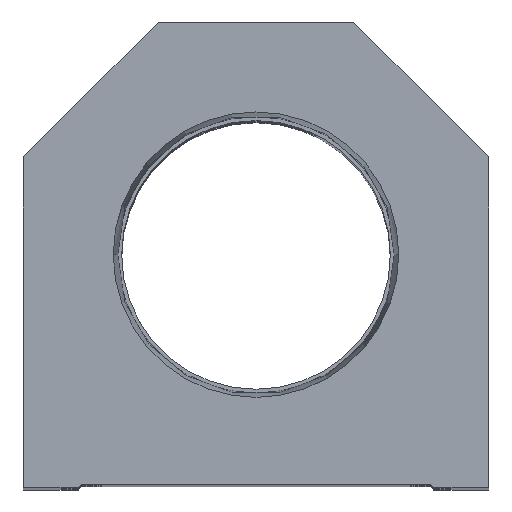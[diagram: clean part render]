
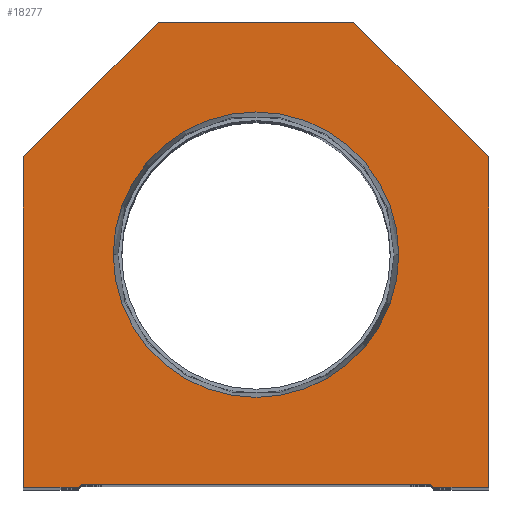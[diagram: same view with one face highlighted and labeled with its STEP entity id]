
A CAD part, top view. The second image highlights one B-rep face of the part: STEP entity #18277.
In plain terms, the highlighted planar face has unit normal (0, 0, 1).
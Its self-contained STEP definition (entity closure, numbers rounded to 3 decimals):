
#133 = DIRECTION ( 'NONE',  ( -0.707, 0.707, 0. ) ) ;
#222 = DIRECTION ( 'NONE',  ( 1., 0., 0. ) ) ;
#540 = DIRECTION ( 'NONE',  ( 0.707, 0.707, 0. ) ) ;
#886 = DIRECTION ( 'NONE',  ( 0., 0., 1. ) ) ;
#1094 = CARTESIAN_POINT ( 'NONE',  ( 29.1, 0., 0. ) ) ;
#1209 = LINE ( 'NONE', #13884, #12141 ) ;
#1412 = DIRECTION ( 'NONE',  ( 0.707, -0.707, 0. ) ) ;
#1571 = EDGE_LOOP ( 'NONE', ( #6494, #17538, #5445, #16639, #16334, #4119, #5493, #12669, #13872, #1754 ) ) ;
#1737 = VERTEX_POINT ( 'NONE', #10301 ) ;
#1754 = ORIENTED_EDGE ( 'NONE', *, *, #5977, .T. ) ;
#1776 = CARTESIAN_POINT ( 'NONE',  ( 0., 38.1, 0. ) ) ;
#1801 = CARTESIAN_POINT ( 'NONE',  ( -38.1, 54.1, 0. ) ) ;
#1808 = CARTESIAN_POINT ( 'NONE',  ( 0., 38.1, 0. ) ) ;
#2021 = DIRECTION ( 'NONE',  ( 0., 0., 1. ) ) ;
#2053 = CARTESIAN_POINT ( 'NONE',  ( -28.6, 0.5, 0. ) ) ;
#2466 = PLANE ( 'NONE',  #13364 ) ;
#2878 = LINE ( 'NONE', #15762, #13768 ) ;
#2883 = VECTOR ( 'NONE', #540, 1000. ) ;
#3125 = CARTESIAN_POINT ( 'NONE',  ( 28.6, 0., 0. ) ) ;
#3391 = LINE ( 'NONE', #1801, #19461 ) ;
#3954 = CARTESIAN_POINT ( 'NONE',  ( -38.1, 0., 0. ) ) ;
#4119 = ORIENTED_EDGE ( 'NONE', *, *, #8512, .T. ) ;
#4182 = DIRECTION ( 'NONE',  ( -1., 0., 0. ) ) ;
#4560 = EDGE_CURVE ( 'NONE', #7757, #1737, #3391, .T. ) ;
#4573 = DIRECTION ( 'NONE',  ( 1., 0., 0. ) ) ;
#4869 = EDGE_CURVE ( 'NONE', #9669, #13453, #17477, .T. ) ;
#4893 = EDGE_CURVE ( 'NONE', #13475, #9405, #7857, .T. ) ;
#5095 = VERTEX_POINT ( 'NONE', #17079 ) ;
#5445 = ORIENTED_EDGE ( 'NONE', *, *, #5621, .T. ) ;
#5493 = ORIENTED_EDGE ( 'NONE', *, *, #4869, .T. ) ;
#5589 = FACE_OUTER_BOUND ( 'NONE', #1571, .T. ) ;
#5604 = VECTOR ( 'NONE', #13086, 1000. ) ;
#5621 = EDGE_CURVE ( 'NONE', #9282, #5095, #19409, .T. ) ;
#5806 = VERTEX_POINT ( 'NONE', #11663 ) ;
#5977 = EDGE_CURVE ( 'NONE', #1737, #13915, #14561, .T. ) ;
#6173 = DIRECTION ( 'NONE',  ( 1., 0., 0. ) ) ;
#6227 = CARTESIAN_POINT ( 'NONE',  ( 23.374, 38.1, 0. ) ) ;
#6492 = DIRECTION ( 'NONE',  ( 1., 0., 0. ) ) ;
#6494 = ORIENTED_EDGE ( 'NONE', *, *, #18676, .T. ) ;
#6889 = VERTEX_POINT ( 'NONE', #1094 ) ;
#7239 = DIRECTION ( 'NONE',  ( 1., 0., 0. ) ) ;
#7470 = ORIENTED_EDGE ( 'NONE', *, *, #11611, .F. ) ;
#7480 = ORIENTED_EDGE ( 'NONE', *, *, #4893, .F. ) ;
#7528 = AXIS2_PLACEMENT_3D ( 'NONE', #1776, #14457, #222 ) ;
#7757 = VERTEX_POINT ( 'NONE', #14198 ) ;
#7857 = CIRCLE ( 'NONE', #7528, 23.374 ) ;
#8032 = CARTESIAN_POINT ( 'NONE',  ( 38.1, 54.1, 0. ) ) ;
#8079 = VERTEX_POINT ( 'NONE', #18348 ) ;
#8405 = DIRECTION ( 'NONE',  ( 1., 0., 0. ) ) ;
#8512 = EDGE_CURVE ( 'NONE', #8079, #9669, #1209, .T. ) ;
#9214 = VECTOR ( 'NONE', #8405, 1000. ) ;
#9282 = VERTEX_POINT ( 'NONE', #14864 ) ;
#9405 = VERTEX_POINT ( 'NONE', #6227 ) ;
#9424 = CARTESIAN_POINT ( 'NONE',  ( 16., 76.2, 0. ) ) ;
#9669 = VERTEX_POINT ( 'NONE', #13380 ) ;
#10060 = VECTOR ( 'NONE', #6173, 1000. ) ;
#10301 = CARTESIAN_POINT ( 'NONE',  ( -38.1, 54.1, 0. ) ) ;
#10565 = AXIS2_PLACEMENT_3D ( 'NONE', #1808, #2021, #6492 ) ;
#10567 = EDGE_LOOP ( 'NONE', ( #7470, #7480 ) ) ;
#10846 = CARTESIAN_POINT ( 'NONE',  ( -28.6, 0., 0. ) ) ;
#10933 = CARTESIAN_POINT ( 'NONE',  ( -38.1, 0., 0. ) ) ;
#11611 = EDGE_CURVE ( 'NONE', #9405, #13475, #19214, .T. ) ;
#11663 = CARTESIAN_POINT ( 'NONE',  ( -29.1, 0., 0. ) ) ;
#12141 = VECTOR ( 'NONE', #17739, 1000. ) ;
#12312 = LINE ( 'NONE', #10846, #10060 ) ;
#12498 = EDGE_CURVE ( 'NONE', #5095, #6889, #2878, .T. ) ;
#12669 = ORIENTED_EDGE ( 'NONE', *, *, #14363, .T. ) ;
#13086 = DIRECTION ( 'NONE',  ( 0., -1., 0. ) ) ;
#13112 = LINE ( 'NONE', #19176, #2883 ) ;
#13364 = AXIS2_PLACEMENT_3D ( 'NONE', #15141, #886, #7239 ) ;
#13380 = CARTESIAN_POINT ( 'NONE',  ( 38.1, 54.1, 0. ) ) ;
#13453 = VERTEX_POINT ( 'NONE', #9424 ) ;
#13462 = FACE_BOUND ( 'NONE', #10567, .T. ) ;
#13471 = VECTOR ( 'NONE', #4182, 1000. ) ;
#13475 = VERTEX_POINT ( 'NONE', #17103 ) ;
#13738 = EDGE_CURVE ( 'NONE', #5806, #9282, #13112, .T. ) ;
#13768 = VECTOR ( 'NONE', #1412, 1000. ) ;
#13872 = ORIENTED_EDGE ( 'NONE', *, *, #4560, .T. ) ;
#13884 = CARTESIAN_POINT ( 'NONE',  ( 38.1, 0., 0. ) ) ;
#13915 = VERTEX_POINT ( 'NONE', #10933 ) ;
#13928 = VECTOR ( 'NONE', #4573, 1000. ) ;
#13935 = LINE ( 'NONE', #16743, #13471 ) ;
#14198 = CARTESIAN_POINT ( 'NONE',  ( -16., 76.2, 0. ) ) ;
#14363 = EDGE_CURVE ( 'NONE', #13453, #7757, #13935, .T. ) ;
#14457 = DIRECTION ( 'NONE',  ( 0., 0., 1. ) ) ;
#14561 = LINE ( 'NONE', #3954, #5604 ) ;
#14864 = CARTESIAN_POINT ( 'NONE',  ( -28.6, 0.5, 0. ) ) ;
#15141 = CARTESIAN_POINT ( 'NONE',  ( 0., 0., 0. ) ) ;
#15489 = EDGE_CURVE ( 'NONE', #6889, #8079, #17558, .T. ) ;
#15762 = CARTESIAN_POINT ( 'NONE',  ( 14.55, 14.55, 0. ) ) ;
#16334 = ORIENTED_EDGE ( 'NONE', *, *, #15489, .T. ) ;
#16639 = ORIENTED_EDGE ( 'NONE', *, *, #12498, .T. ) ;
#16743 = CARTESIAN_POINT ( 'NONE',  ( 16., 76.2, 0. ) ) ;
#17079 = CARTESIAN_POINT ( 'NONE',  ( 28.6, 0.5, 0. ) ) ;
#17103 = CARTESIAN_POINT ( 'NONE',  ( -23.374, 38.1, 0. ) ) ;
#17477 = LINE ( 'NONE', #8032, #20488 ) ;
#17538 = ORIENTED_EDGE ( 'NONE', *, *, #13738, .T. ) ;
#17558 = LINE ( 'NONE', #3125, #13928 ) ;
#17624 = DIRECTION ( 'NONE',  ( -0.707, -0.707, 0. ) ) ;
#17739 = DIRECTION ( 'NONE',  ( 0., 1., 0. ) ) ;
#18277 = ADVANCED_FACE ( 'NONE', ( #13462, #5589 ), #2466, .T. ) ;
#18348 = CARTESIAN_POINT ( 'NONE',  ( 38.1, 0., 0. ) ) ;
#18676 = EDGE_CURVE ( 'NONE', #13915, #5806, #12312, .T. ) ;
#19176 = CARTESIAN_POINT ( 'NONE',  ( -14.55, 14.55, 0. ) ) ;
#19214 = CIRCLE ( 'NONE', #10565, 23.374 ) ;
#19409 = LINE ( 'NONE', #2053, #9214 ) ;
#19461 = VECTOR ( 'NONE', #17624, 1000. ) ;
#20488 = VECTOR ( 'NONE', #133, 1000. ) ;
